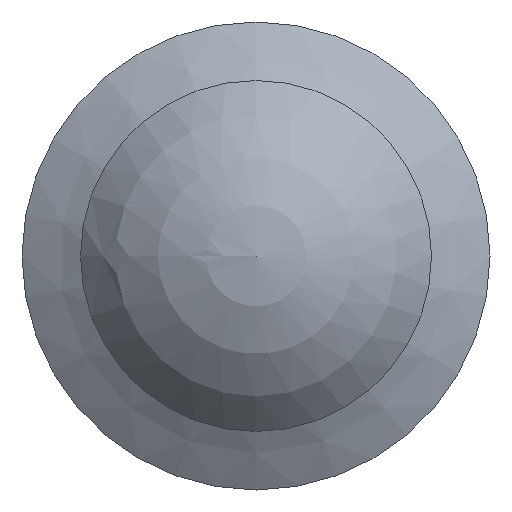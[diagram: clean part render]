
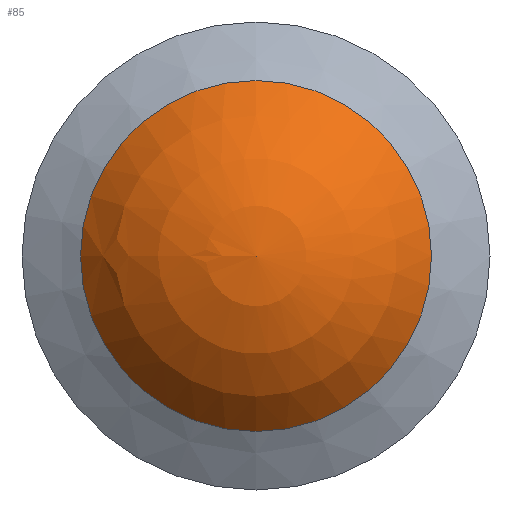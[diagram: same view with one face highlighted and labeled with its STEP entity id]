
A CAD part, front view. The second image highlights one B-rep face of the part: STEP entity #85.
In plain terms, the highlighted spherical face has radius 7.5 mm.
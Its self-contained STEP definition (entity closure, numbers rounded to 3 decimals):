
#85 = ADVANCED_FACE( '', ( #118, #119 ), #120, .T. );
#118 = FACE_BOUND( '', #156, .T. );
#119 = FACE_OUTER_BOUND( '', #157, .T. );
#120 = SPHERICAL_SURFACE( '', #158, 7.5 );
#156 = VERTEX_LOOP( '', #230 );
#157 = EDGE_LOOP( '', ( #231 ) );
#158 = AXIS2_PLACEMENT_3D( '', #232, #233, #234 );
#230 = VERTEX_POINT( '', #285 );
#231 = ORIENTED_EDGE( '', *, *, #284, .T. );
#232 = CARTESIAN_POINT( '', ( 0., 7.5, 0. ) );
#233 = DIRECTION( '', ( 0., -1., 0. ) );
#234 = DIRECTION( '', ( -1., 0., 0. ) );
#284 = EDGE_CURVE( '', #328, #328, #329, .T. );
#285 = CARTESIAN_POINT( '', ( 0., 0., 0. ) );
#328 = VERTEX_POINT( '', #387 );
#329 = CIRCLE( '', #388, 6. );
#387 = CARTESIAN_POINT( '', ( 0., 3., -6. ) );
#388 = AXIS2_PLACEMENT_3D( '', #428, #429, #430 );
#428 = CARTESIAN_POINT( '', ( 0., 3., 0. ) );
#429 = DIRECTION( '', ( 0., -1., 0. ) );
#430 = DIRECTION( '', ( 0., 0., -1. ) );
